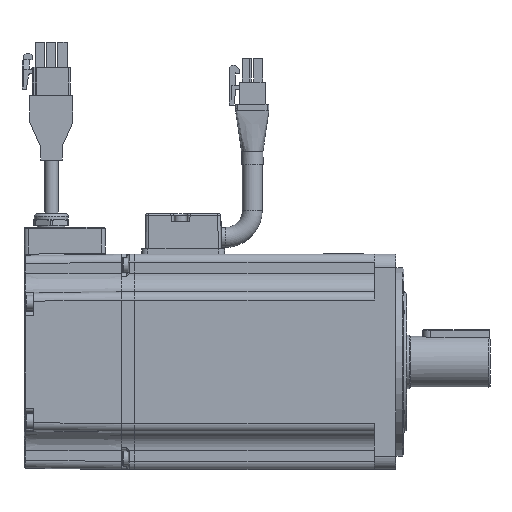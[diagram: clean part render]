
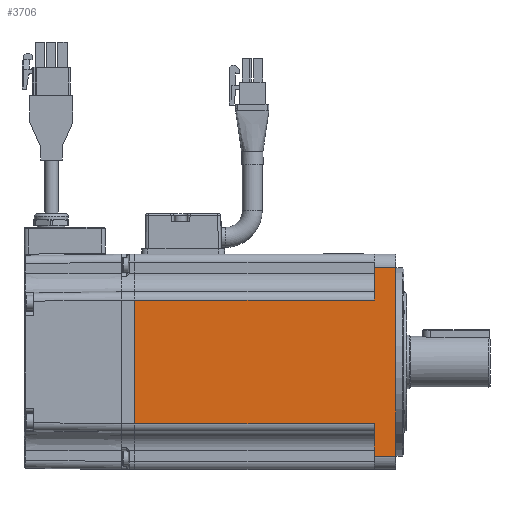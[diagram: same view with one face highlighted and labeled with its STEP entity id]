
A CAD part, left-side view. The second image highlights one B-rep face of the part: STEP entity #3706.
In plain terms, the highlighted planar face has unit normal (-1, 0, 0).
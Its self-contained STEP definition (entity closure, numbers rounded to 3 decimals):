
#3706 = ADVANCED_FACE( '', ( #8308 ), #8309, .T. );
#8308 = FACE_OUTER_BOUND( '', #16100, .T. );
#8309 = PLANE( '', #16101 );
#16100 = EDGE_LOOP( '', ( #28875, #28876, #28877, #28878, #28879, #28880, #28881, #28882 ) );
#16101 = AXIS2_PLACEMENT_3D( '', #28883, #28884, #28885 );
#28875 = ORIENTED_EDGE( '', *, *, #44746, .F. );
#28876 = ORIENTED_EDGE( '', *, *, #44747, .T. );
#28877 = ORIENTED_EDGE( '', *, *, #44748, .F. );
#28878 = ORIENTED_EDGE( '', *, *, #44731, .T. );
#28879 = ORIENTED_EDGE( '', *, *, #44749, .F. );
#28880 = ORIENTED_EDGE( '', *, *, #44750, .T. );
#28881 = ORIENTED_EDGE( '', *, *, #44751, .F. );
#28882 = ORIENTED_EDGE( '', *, *, #44752, .T. );
#28883 = CARTESIAN_POINT( '', ( -40., 197.846, 40. ) );
#28884 = DIRECTION( '', ( -1., 0., 0. ) );
#28885 = DIRECTION( '', ( 0., 0., 1. ) );
#44731 = EDGE_CURVE( '', #52869, #52867, #52870, .T. );
#44746 = EDGE_CURVE( '', #52893, #52894, #52895, .T. );
#44747 = EDGE_CURVE( '', #52893, #52896, #52897, .F. );
#44748 = EDGE_CURVE( '', #52869, #52896, #52898, .T. );
#44749 = EDGE_CURVE( '', #52899, #52867, #52900, .T. );
#44750 = EDGE_CURVE( '', #52899, #52901, #52902, .F. );
#44751 = EDGE_CURVE( '', #52903, #52901, #52904, .T. );
#44752 = EDGE_CURVE( '', #52903, #52894, #52905, .T. );
#52867 = VERTEX_POINT( '', #64544 );
#52869 = VERTEX_POINT( '', #64546 );
#52870 = LINE( '', #64547, #64548 );
#52893 = VERTEX_POINT( '', #64576 );
#52894 = VERTEX_POINT( '', #64577 );
#52895 = LINE( '', #64578, #64579 );
#52896 = VERTEX_POINT( '', #64580 );
#52897 = LINE( '', #64581, #64582 );
#52898 = LINE( '', #64583, #64584 );
#52899 = VERTEX_POINT( '', #64585 );
#52900 = LINE( '', #64586, #64587 );
#52901 = VERTEX_POINT( '', #64588 );
#52902 = LINE( '', #64589, #64590 );
#52903 = VERTEX_POINT( '', #64591 );
#52904 = LINE( '', #64592, #64593 );
#52905 = LINE( '', #64594, #64595 );
#64544 = CARTESIAN_POINT( '', ( -40., 0.81, -35. ) );
#64546 = CARTESIAN_POINT( '', ( -40., 8.81, -35. ) );
#64547 = CARTESIAN_POINT( '', ( -40., 197.846, -35. ) );
#64548 = VECTOR( '', #79582, 1000. );
#64576 = CARTESIAN_POINT( '', ( -40., 97.81, -23. ) );
#64577 = CARTESIAN_POINT( '', ( -40., 97.81, 23. ) );
#64578 = CARTESIAN_POINT( '', ( -40., 97.81, 40. ) );
#64579 = VECTOR( '', #79603, 1000. );
#64580 = CARTESIAN_POINT( '', ( -40., 8.81, -23. ) );
#64581 = CARTESIAN_POINT( '', ( -40., 197.846, -23. ) );
#64582 = VECTOR( '', #79604, 1000. );
#64583 = CARTESIAN_POINT( '', ( -40., 8.81, 40. ) );
#64584 = VECTOR( '', #79605, 1000. );
#64585 = CARTESIAN_POINT( '', ( -40., 0.81, 35. ) );
#64586 = CARTESIAN_POINT( '', ( -40., 0.81, 40. ) );
#64587 = VECTOR( '', #79606, 1000. );
#64588 = CARTESIAN_POINT( '', ( -40., 8.81, 35. ) );
#64589 = CARTESIAN_POINT( '', ( -40., 197.846, 35. ) );
#64590 = VECTOR( '', #79607, 1000. );
#64591 = CARTESIAN_POINT( '', ( -40., 8.81, 23. ) );
#64592 = CARTESIAN_POINT( '', ( -40., 8.81, 40. ) );
#64593 = VECTOR( '', #79608, 1000. );
#64594 = CARTESIAN_POINT( '', ( -40., 197.846, 23. ) );
#64595 = VECTOR( '', #79609, 1000. );
#79582 = DIRECTION( '', ( 0., -1., 0. ) );
#79603 = DIRECTION( '', ( 0., 0., 1. ) );
#79604 = DIRECTION( '', ( 0., 1., 0. ) );
#79605 = DIRECTION( '', ( 0., 0., 1. ) );
#79606 = DIRECTION( '', ( 0., 0., -1. ) );
#79607 = DIRECTION( '', ( 0., -1., 0. ) );
#79608 = DIRECTION( '', ( 0., 0., 1. ) );
#79609 = DIRECTION( '', ( 0., 1., 0. ) );
